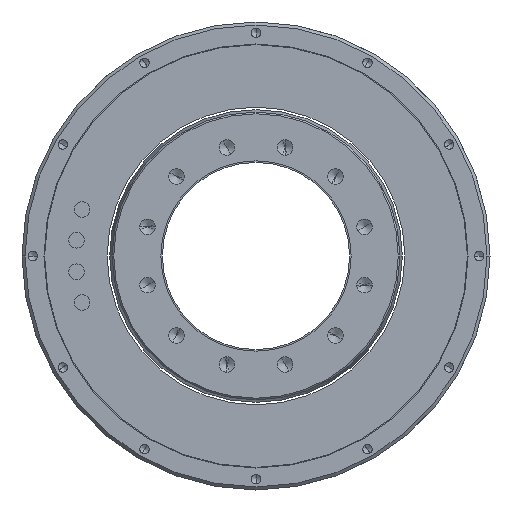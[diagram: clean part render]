
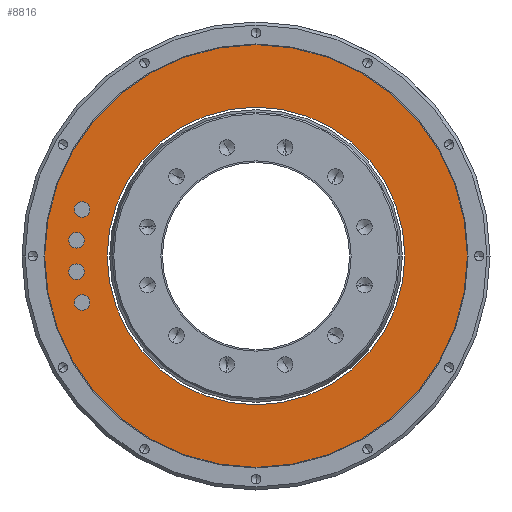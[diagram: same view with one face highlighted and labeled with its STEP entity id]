
A CAD part, left-side view. The second image highlights one B-rep face of the part: STEP entity #8816.
In plain terms, the highlighted planar face has unit normal (-1, 0, 0).
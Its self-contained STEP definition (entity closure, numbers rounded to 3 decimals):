
#8395=CARTESIAN_POINT('',(-77.5,0.,0.));
#8396=DIRECTION('',(-1.,0.,0.));
#8397=DIRECTION('',(0.,1.,0.));
#8398=AXIS2_PLACEMENT_3D('',#8395,#8396,#8397);
#8400=CARTESIAN_POINT('',(-77.5,0.,0.));
#8401=DIRECTION('',(1.,0.,0.));
#8402=DIRECTION('',(0.,1.,0.));
#8403=AXIS2_PLACEMENT_3D('',#8400,#8401,#8402);
#8405=CARTESIAN_POINT('',(-77.5,0.,0.));
#8406=DIRECTION('',(-1.,0.,0.));
#8407=DIRECTION('',(0.,1.,0.));
#8408=AXIS2_PLACEMENT_3D('',#8405,#8406,#8407);
#8410=CARTESIAN_POINT('',(-77.5,0.,0.));
#8411=DIRECTION('',(1.,0.,0.));
#8412=DIRECTION('',(0.,1.,0.));
#8413=AXIS2_PLACEMENT_3D('',#8410,#8411,#8412);
#8415=CARTESIAN_POINT('',(-77.5,55.758,-14.94));
#8416=DIRECTION('',(-1.,0.,0.));
#8417=DIRECTION('',(0.,0.,1.));
#8418=AXIS2_PLACEMENT_3D('',#8415,#8416,#8417);
#8420=CARTESIAN_POINT('',(-77.5,55.758,-14.94));
#8421=DIRECTION('',(-1.,0.,0.));
#8422=DIRECTION('',(0.,0.,-1.));
#8423=AXIS2_PLACEMENT_3D('',#8420,#8421,#8422);
#8425=CARTESIAN_POINT('',(-77.5,55.758,14.94));
#8426=DIRECTION('',(-1.,0.,0.));
#8427=DIRECTION('',(0.,0.,1.));
#8428=AXIS2_PLACEMENT_3D('',#8425,#8426,#8427);
#8430=CARTESIAN_POINT('',(-77.5,55.758,14.94));
#8431=DIRECTION('',(-1.,0.,0.));
#8432=DIRECTION('',(0.,0.,-1.));
#8433=AXIS2_PLACEMENT_3D('',#8430,#8431,#8432);
#8435=CARTESIAN_POINT('',(-77.5,57.505,5.031));
#8436=DIRECTION('',(-1.,0.,0.));
#8437=DIRECTION('',(0.,0.,1.));
#8438=AXIS2_PLACEMENT_3D('',#8435,#8436,#8437);
#8440=CARTESIAN_POINT('',(-77.5,57.505,5.031));
#8441=DIRECTION('',(-1.,0.,0.));
#8442=DIRECTION('',(0.,0.,-1.));
#8443=AXIS2_PLACEMENT_3D('',#8440,#8441,#8442);
#8445=CARTESIAN_POINT('',(-77.5,57.505,-5.031));
#8446=DIRECTION('',(-1.,0.,0.));
#8447=DIRECTION('',(0.,0.,1.));
#8448=AXIS2_PLACEMENT_3D('',#8445,#8446,#8447);
#8450=CARTESIAN_POINT('',(-77.5,57.505,-5.031));
#8451=DIRECTION('',(-1.,0.,0.));
#8452=DIRECTION('',(0.,0.,-1.));
#8453=AXIS2_PLACEMENT_3D('',#8450,#8451,#8452);
#8604=CARTESIAN_POINT('',(-77.5,67.75,0.));
#8606=VERTEX_POINT('',#8604);
#8607=CARTESIAN_POINT('',(-77.5,47.7,0.));
#8609=VERTEX_POINT('',#8607);
#8624=CARTESIAN_POINT('',(-77.5,-67.75,0.));
#8626=VERTEX_POINT('',#8624);
#8627=CARTESIAN_POINT('',(-77.5,-47.7,0.));
#8629=VERTEX_POINT('',#8627);
#8659=CARTESIAN_POINT('',(-77.5,55.758,-12.44));
#8660=CARTESIAN_POINT('',(-77.5,55.758,-17.44));
#8661=VERTEX_POINT('',#8659);
#8662=VERTEX_POINT('',#8660);
#8663=CARTESIAN_POINT('',(-77.5,55.758,17.44));
#8664=CARTESIAN_POINT('',(-77.5,55.758,12.44));
#8665=VERTEX_POINT('',#8663);
#8666=VERTEX_POINT('',#8664);
#8667=CARTESIAN_POINT('',(-77.5,57.505,7.531));
#8668=CARTESIAN_POINT('',(-77.5,57.505,2.531));
#8669=VERTEX_POINT('',#8667);
#8670=VERTEX_POINT('',#8668);
#8671=CARTESIAN_POINT('',(-77.5,57.505,-2.531));
#8672=CARTESIAN_POINT('',(-77.5,57.505,-7.531));
#8673=VERTEX_POINT('',#8671);
#8674=VERTEX_POINT('',#8672);
#8777=CARTESIAN_POINT('',(-77.5,0.,0.));
#8778=DIRECTION('',(1.,0.,0.));
#8779=DIRECTION('',(0.,-1.,0.));
#8780=AXIS2_PLACEMENT_3D('',#8777,#8778,#8779);
#8781=PLANE('',#8780);
#8783=ORIENTED_EDGE('',*,*,#8782,.F.);
#8785=ORIENTED_EDGE('',*,*,#8784,.T.);
#8786=EDGE_LOOP('',(#8783,#8785));
#8787=FACE_OUTER_BOUND('',#8786,.F.);
#8788=ORIENTED_EDGE('',*,*,#8770,.F.);
#8789=ORIENTED_EDGE('',*,*,#8759,.T.);
#8790=EDGE_LOOP('',(#8788,#8789));
#8791=FACE_BOUND('',#8790,.F.);
#8793=ORIENTED_EDGE('',*,*,#8792,.T.);
#8795=ORIENTED_EDGE('',*,*,#8794,.T.);
#8796=EDGE_LOOP('',(#8793,#8795));
#8797=FACE_BOUND('',#8796,.F.);
#8799=ORIENTED_EDGE('',*,*,#8798,.T.);
#8801=ORIENTED_EDGE('',*,*,#8800,.T.);
#8802=EDGE_LOOP('',(#8799,#8801));
#8803=FACE_BOUND('',#8802,.F.);
#8805=ORIENTED_EDGE('',*,*,#8804,.T.);
#8807=ORIENTED_EDGE('',*,*,#8806,.T.);
#8808=EDGE_LOOP('',(#8805,#8807));
#8809=FACE_BOUND('',#8808,.F.);
#8811=ORIENTED_EDGE('',*,*,#8810,.T.);
#8813=ORIENTED_EDGE('',*,*,#8812,.T.);
#8814=EDGE_LOOP('',(#8811,#8813));
#8815=FACE_BOUND('',#8814,.F.);
#8816=ADVANCED_FACE('',(#8787,#8791,#8797,#8803,#8809,#8815),#8781,.F.);
#8399=CIRCLE('',#8398,47.7);
#8404=CIRCLE('',#8403,47.7);
#8409=CIRCLE('',#8408,67.75);
#8414=CIRCLE('',#8413,67.75);
#8419=CIRCLE('',#8418,2.5);
#8424=CIRCLE('',#8423,2.5);
#8429=CIRCLE('',#8428,2.5);
#8434=CIRCLE('',#8433,2.5);
#8439=CIRCLE('',#8438,2.5);
#8444=CIRCLE('',#8443,2.5);
#8449=CIRCLE('',#8448,2.5);
#8454=CIRCLE('',#8453,2.5);
#8759=EDGE_CURVE('',#8609,#8629,#8399,.T.);
#8770=EDGE_CURVE('',#8609,#8629,#8404,.T.);
#8782=EDGE_CURVE('',#8606,#8626,#8409,.T.);
#8784=EDGE_CURVE('',#8606,#8626,#8414,.T.);
#8792=EDGE_CURVE('',#8661,#8662,#8419,.T.);
#8794=EDGE_CURVE('',#8662,#8661,#8424,.T.);
#8798=EDGE_CURVE('',#8665,#8666,#8429,.T.);
#8800=EDGE_CURVE('',#8666,#8665,#8434,.T.);
#8804=EDGE_CURVE('',#8669,#8670,#8439,.T.);
#8806=EDGE_CURVE('',#8670,#8669,#8444,.T.);
#8810=EDGE_CURVE('',#8673,#8674,#8449,.T.);
#8812=EDGE_CURVE('',#8674,#8673,#8454,.T.);
